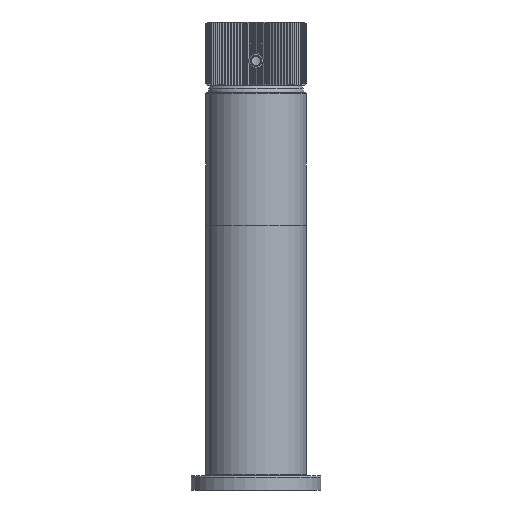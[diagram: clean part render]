
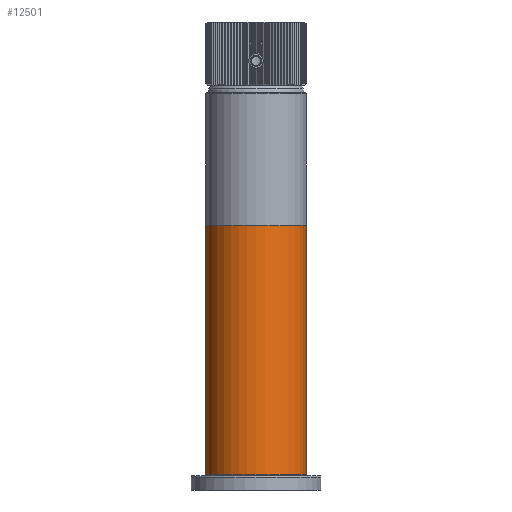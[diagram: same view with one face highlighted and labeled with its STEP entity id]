
A CAD part, left-side view. The second image highlights one B-rep face of the part: STEP entity #12501.
In plain terms, the highlighted cylindrical face has radius 17.5 mm (diameter 35 mm), a full revolution.
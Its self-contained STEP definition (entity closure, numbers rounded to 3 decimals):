
#2558=CYLINDRICAL_SURFACE('',#18323,17.5);
#2824=ORIENTED_EDGE('',*,*,#6562,.F.);
#2825=ORIENTED_EDGE('',*,*,#6563,.T.);
#6562=EDGE_CURVE('',#8465,#8465,#9778,.F.);
#6563=EDGE_CURVE('',#8466,#8466,#9779,.F.);
#8465=VERTEX_POINT('',#23366);
#8466=VERTEX_POINT('',#23368);
#9778=CIRCLE('',#18324,17.5);
#9779=CIRCLE('',#18325,17.5);
#10413=EDGE_LOOP('',(#2824));
#10414=EDGE_LOOP('',(#2825));
#11325=FACE_BOUND('',#10413,.T.);
#11326=FACE_BOUND('',#10414,.T.);
#12501=ADVANCED_FACE('',(#11325,#11326),#2558,.T.);
#18323=AXIS2_PLACEMENT_3D('',#23364,#19793,#19794);
#18324=AXIS2_PLACEMENT_3D('',#23365,#19795,#19796);
#18325=AXIS2_PLACEMENT_3D('',#23367,#19797,#19798);
#19793=DIRECTION('',(0.,0.,-1.));
#19794=DIRECTION('',(-1.,0.,0.));
#19795=DIRECTION('',(0.,0.,-1.));
#19796=DIRECTION('',(-1.,0.,0.));
#19797=DIRECTION('',(0.,0.,-1.));
#19798=DIRECTION('',(-1.,0.,0.));
#23364=CARTESIAN_POINT('',(0.,0.,128.4));
#23365=CARTESIAN_POINT('',(0.,0.,86.8));
#23366=CARTESIAN_POINT('',(-17.5,0.,86.8));
#23367=CARTESIAN_POINT('',(0.,0.,0.3));
#23368=CARTESIAN_POINT('',(-17.5,0.,0.3));
